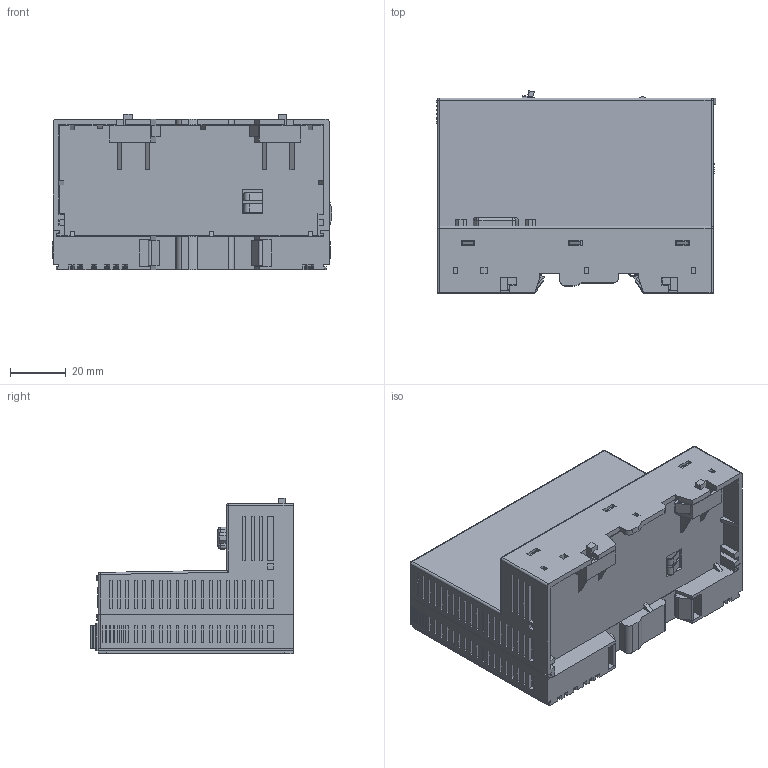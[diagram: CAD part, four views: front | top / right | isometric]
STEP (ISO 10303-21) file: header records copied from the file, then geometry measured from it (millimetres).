
FILE_DESCRIPTION((''),'2;1');
FILE_NAME('FNIO-NA-9222','2016-03-24T',('Dongwoo'),(''),'PRO/ENGINEER BY PARAMETRIC TECHNOLOGY CORPORATION, 2006170','PRO/ENGINEER BY PARAMETRIC TECHNOLOGY CORPORATION, 2006170','');
FILE_SCHEMA(('CONFIG_CONTROL_DESIGN'));
Length unit declared in the file: millimetre
Products named in the file (1): FNIO-NA-9222
Bounding box: 100.36 x 72.6 x 55.8 mm (x, y, z)
Volume: 225008.5 mm3; surface area: 55241.6 mm2
Topology: 2 solids, 3 shells, 2311 faces, 6208 edges, 4074 vertices
Faces by surface type: plane 2096, cylinder 179, sphere 16, cone 16, torus 4
Entity records: 70999 total; most frequent: CARTESIAN_POINT 12642, ORIENTED_EDGE 12416, DIRECTION 11201, EDGE_CURVE 6208, VECTOR 5819, LINE 5819, VERTEX_POINT 4074, AXIS2_PLACEMENT_3D 2691
